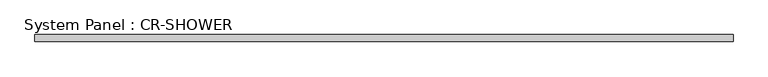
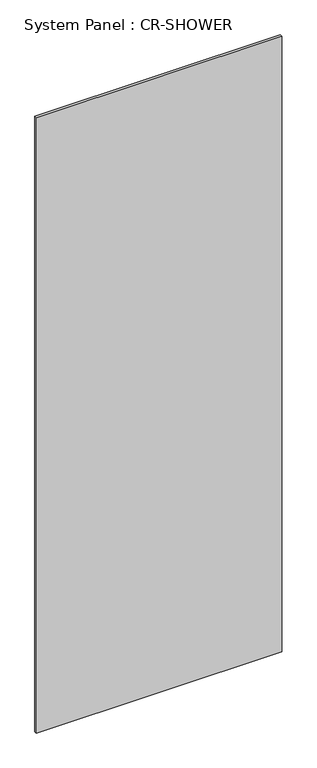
"""IFC4 building model written with IfcOpenShell, lengths in millimetres: plate geometry, System Panel : CR-SHOWER."""

from ifc_helpers import new_model, si_unit, origin, origin_with_axes, place, context, project, spatial, polyline, outline, extrude, source, transform, mapped, element, save


def system_panel_cr_shower_02e1cb46(model_context):
    return source(origin(), model_context, "Body", "SweptSolid", [
        extrude(outline(polyline([(631.6460077, -0.05), (-631.6460077, -0.05), (-631.6460077, 12.45), (631.6460077, 12.45), (631.6460077, -0.05)])), origin_with_axes(), (0.0, 0.0, 1.0), 3350.0),
    ])


if __name__ == "__main__":
    model = new_model("IFC4")
    model_context = context("Model", 3, world=origin())
    ifc_project = project(units=[si_unit("LENGTHUNIT", "METRE", prefix="MILLI")], contexts=[model_context])
    site = spatial("IfcSite", under=ifc_project)
    building = spatial("IfcBuilding", under=site)
    placement = place(None, origin())
    system_panel_cr_shower_shape = system_panel_cr_shower_02e1cb46(model_context)
    element("IfcPlate", 1, ObjectType="System Panel : CR-SHOWER", at=placement, inside=building, context=model_context, shape_type="MappedRepresentation", body=[
        mapped(system_panel_cr_shower_shape, transform((0.0, 0.0, 0.0), x_axis=(1.0, 0.0, 0.0), y_axis=(0.0, 1.0, 0.0), z_axis=(0.0, 0.0, 1.0))),
    ])
    save(model, "model.ifc")
